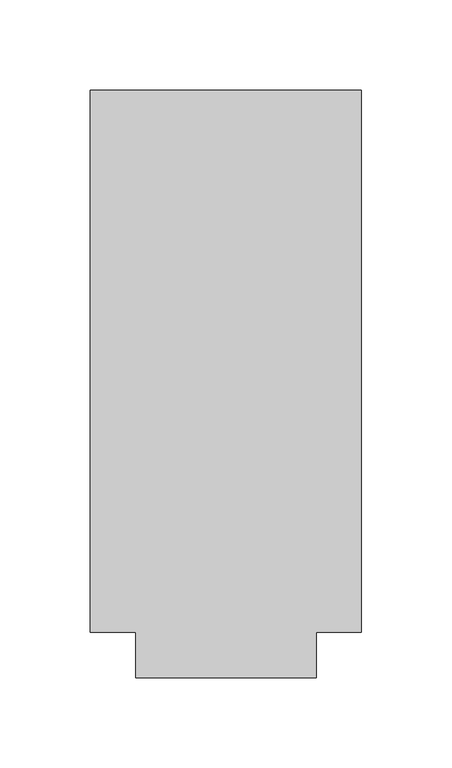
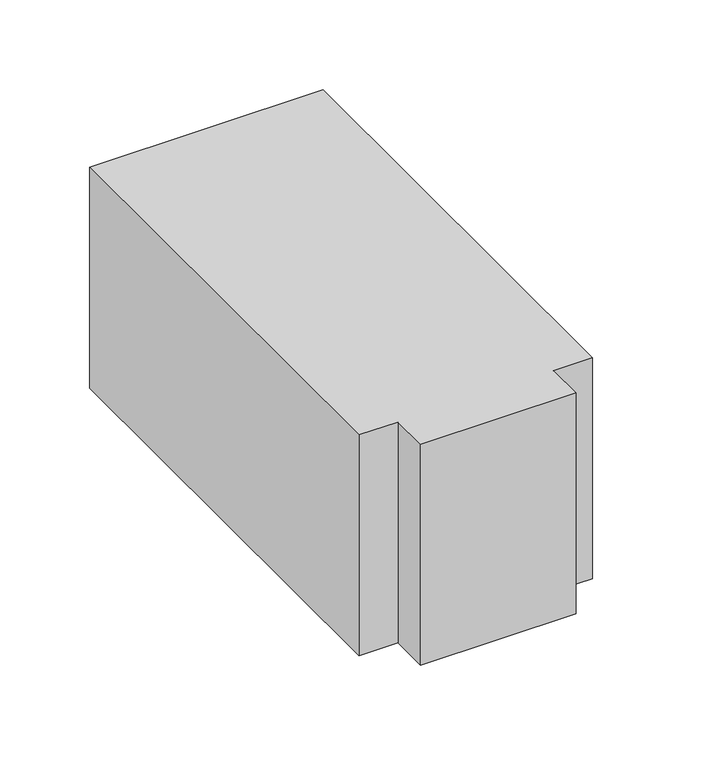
"""IFC4 building model written with IfcOpenShell, lengths in millimetres: duct fitting geometry, M_Te rectangular : Estándar."""

from ifc_helpers import new_model, si_unit, frame, origin, place, context, project, spatial, polyline, outline, extrude, source, transform, mapped, element, save


def duct_fitting_9b4c768b(model_context):
    return source(origin(), model_context, "Body", "SweptSolid", [
        extrude(outline(polyline([(-75.0, -150.0), (-75.0, 150.0), (75.0, 150.0), (75.0, -150.0), (50.0, -150.0), (50.0, -175.0), (-50.0, -175.0), (-50.0, -150.0), (-75.0, -150.0)])), frame((0.0, 0.0, -75.0), z_axis=(0.0, 0.0, 1.0), x_axis=(1.0, 0.0, 0.0)), (0.0, 0.0, 1.0), 150.0),
    ])


if __name__ == "__main__":
    model = new_model("IFC4")
    model_context = context("Model", 3, world=origin())
    ifc_project = project(units=[si_unit("LENGTHUNIT", "METRE", prefix="MILLI")], contexts=[model_context])
    site = spatial("IfcSite", under=ifc_project)
    building = spatial("IfcBuilding", under=site)
    placement = place(None, origin())
    duct_fitting_shape = duct_fitting_9b4c768b(model_context)
    element("IfcDuctFitting", 1, ObjectType="M_Te rectangular : Estándar", at=placement, inside=building, context=model_context, shape_type="MappedRepresentation", body=[
        mapped(duct_fitting_shape, transform((0.0, 0.0, 0.0), x_axis=(1.0, 0.0, 0.0), y_axis=(0.0, 1.0, 0.0), z_axis=(0.0, 0.0, 1.0))),
    ])
    save(model, "model.ifc")
